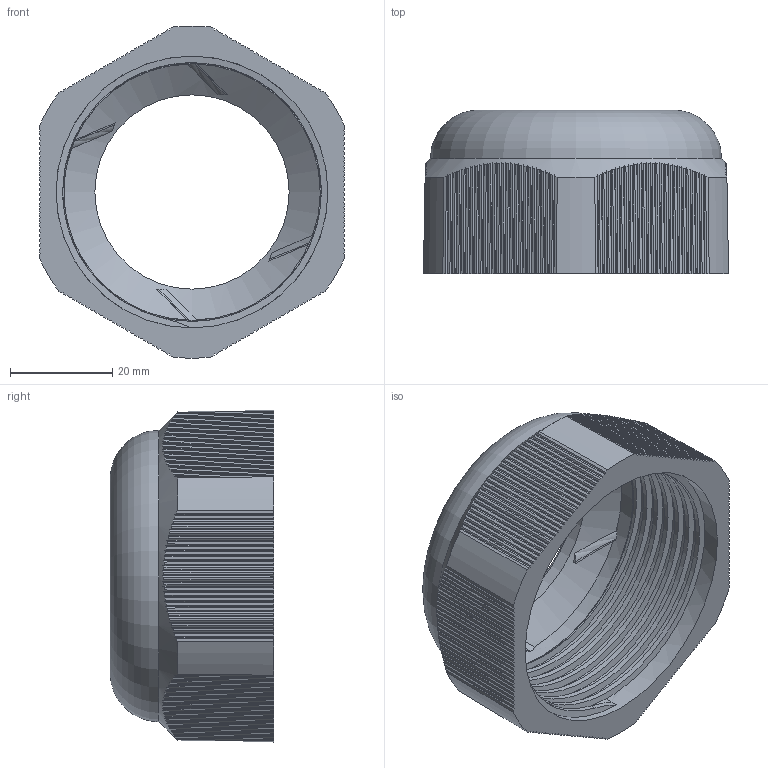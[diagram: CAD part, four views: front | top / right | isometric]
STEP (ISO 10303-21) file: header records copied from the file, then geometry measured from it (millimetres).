
FILE_DESCRIPTION (( 'STEP AP203' ), '1' );
FILE_NAME ('Ãàéêà öàíãîâàÿ (PG42).STEP', '2020-08-06T09:31:30', ( '' ), ( '' ), 'SwSTEP 2.0', 'SolidWorks 2019', '' );
FILE_SCHEMA (( 'CONFIG_CONTROL_DESIGN' ));
Length unit declared in the file: millimetre
Products named in the file (1): Ãàéêà öàíãîâàÿ (PG42)
Bounding box: 59.7 x 31.99 x 64.95 mm (x, y, z)
Volume: 25329.6 mm3; surface area: 16249.7 mm2
Topology: 1 solids, 1 shells, 500 faces, 1488 edges, 990 vertices
Faces by surface type: plane 467, cylinder 12, cone 12, bspline 7, torus 2
Full cylindrical faces by diameter (mm): 38 x1, 50.2 x1, 53.2 x7
Entity records: 18509 total; most frequent: CARTESIAN_POINT 6267, ORIENTED_EDGE 2914, DIRECTION 1949, EDGE_CURVE 1457, VERTEX_POINT 973, VECTOR 919, LINE 919, AXIS2_PLACEMENT_3D 515
